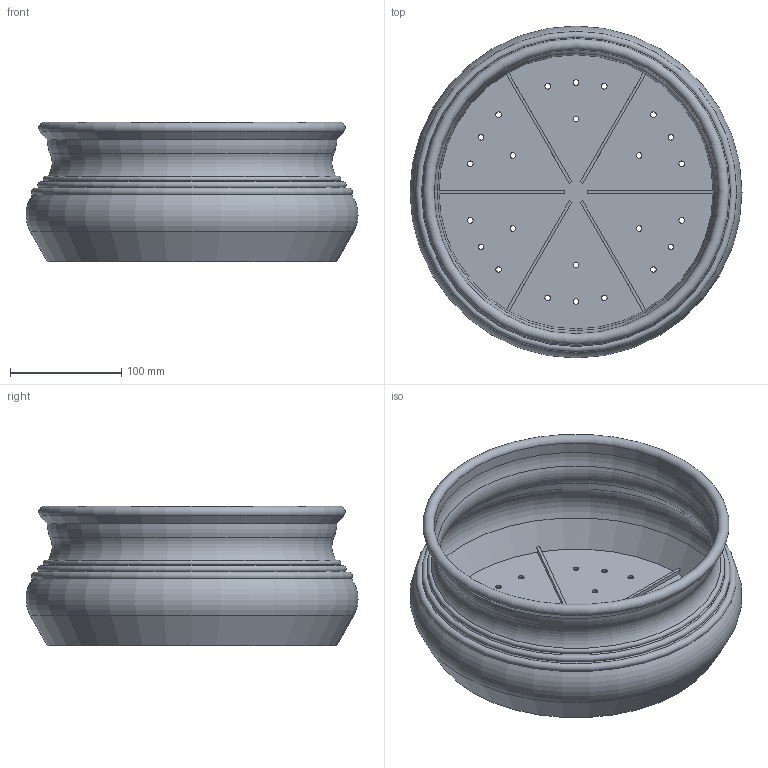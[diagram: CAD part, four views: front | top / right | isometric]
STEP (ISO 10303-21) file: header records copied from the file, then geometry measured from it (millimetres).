
FILE_DESCRIPTION(/* description */ (''),/* implementation_level */ '2;1');
FILE_NAME(/* name */ 'LR2406-S25-H125-D300_step.step',/* time_stamp */ '2024-02-01T10:59:08+01:00',/* author */ (''),/* organization */ (''),/* preprocessor_version */ 'ST-DEVELOPER v20',/* originating_system */ 'Autodesk Translation Framework v12.20.1.177',/* authorisation */ '');
FILE_SCHEMA (('AUTOMOTIVE_DESIGN { 1 0 10303 214 3 1 1 }'));
Length unit declared in the file: millimetre
Products named in the file (1): LR2406-S25-H125-D300
Bounding box: 297.99 x 297.99 x 125 mm (x, y, z)
Volume: 487076.3 mm3; surface area: 356005.8 mm2
Topology: 1 solids, 1 shells, 68 faces, 181 edges, 115 vertices
Faces by surface type: cylinder 31, plane 20, torus 10, cone 7
Full cylindrical faces by diameter (mm): 5 x24, 255 x1
Entity records: 2286 total; most frequent: DIRECTION 420, CARTESIAN_POINT 365, ORIENTED_EDGE 362, EDGE_CURVE 181, AXIS2_PLACEMENT_3D 170, EDGE_LOOP 116, VERTEX_POINT 115, CIRCLE 101
